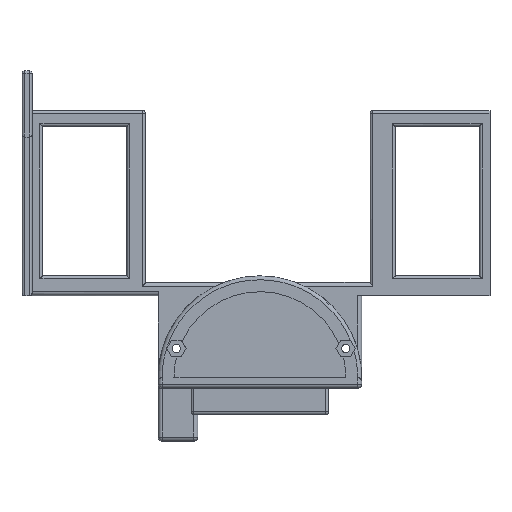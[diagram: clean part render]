
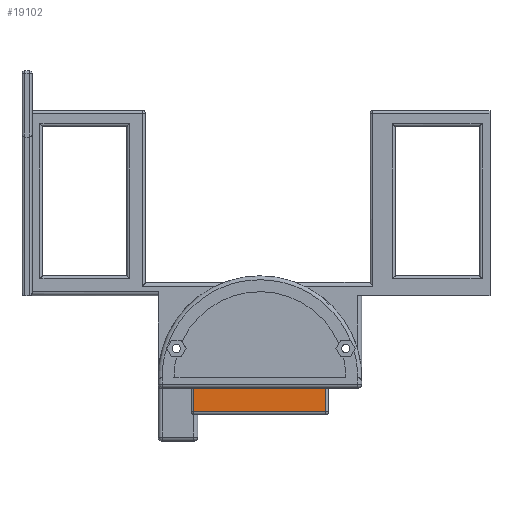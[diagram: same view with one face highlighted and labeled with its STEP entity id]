
A CAD part, front view. The second image highlights one B-rep face of the part: STEP entity #19102.
In plain terms, the highlighted planar face has unit normal (0, -1, 0).
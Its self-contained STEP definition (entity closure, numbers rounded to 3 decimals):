
#1216 = PLANE('',#1217);
#1217 = AXIS2_PLACEMENT_3D('',#1218,#1219,#1220);
#1218 = CARTESIAN_POINT('',(-40.176,7.5,-59.059));
#1219 = DIRECTION('',(0.,0.,-1.));
#1220 = DIRECTION('',(-1.,0.,-0.));
#1269 = VERTEX_POINT('',#1270);
#1270 = CARTESIAN_POINT('',(-26.676,-34.5,-59.059));
#1289 = CYLINDRICAL_SURFACE('',#1290,1.);
#1290 = AXIS2_PLACEMENT_3D('',#1291,#1292,#1293);
#1291 = CARTESIAN_POINT('',(-26.676,-33.5,-69.059));
#1292 = DIRECTION('',(-0.,0.,1.));
#1293 = DIRECTION('',(1.,0.,0.));
#1301 = EDGE_CURVE('',#1302,#1269,#1304,.T.);
#1302 = VERTEX_POINT('',#1303);
#1303 = CARTESIAN_POINT('',(23.324,-34.5,-59.059));
#1304 = SURFACE_CURVE('',#1305,(#1309,#1316),.PCURVE_S1.);
#1305 = LINE('',#1306,#1307);
#1306 = CARTESIAN_POINT('',(0.,-34.5,-59.059));
#1307 = VECTOR('',#1308,1.);
#1308 = DIRECTION('',(-1.,0.,0.));
#1309 = PCURVE('',#1216,#1310);
#1310 = DEFINITIONAL_REPRESENTATION('',(#1311),#1315);
#1311 = LINE('',#1312,#1313);
#1312 = CARTESIAN_POINT('',(-40.176,-42.));
#1313 = VECTOR('',#1314,1.);
#1314 = DIRECTION('',(1.,0.));
#1315 = ( GEOMETRIC_REPRESENTATION_CONTEXT(2) 
PARAMETRIC_REPRESENTATION_CONTEXT() REPRESENTATION_CONTEXT('2D SPACE',''
  ) );
#1316 = PCURVE('',#1317,#1322);
#1317 = PLANE('',#1318);
#1318 = AXIS2_PLACEMENT_3D('',#1319,#1320,#1321);
#1319 = CARTESIAN_POINT('',(0.,-34.5,-69.059));
#1320 = DIRECTION('',(0.,1.,0.));
#1321 = DIRECTION('',(0.,-0.,1.));
#1322 = DEFINITIONAL_REPRESENTATION('',(#1323),#1327);
#1323 = LINE('',#1324,#1325);
#1324 = CARTESIAN_POINT('',(10.,0.));
#1325 = VECTOR('',#1326,1.);
#1326 = DIRECTION('',(0.,-1.));
#1327 = ( GEOMETRIC_REPRESENTATION_CONTEXT(2) 
PARAMETRIC_REPRESENTATION_CONTEXT() REPRESENTATION_CONTEXT('2D SPACE',''
  ) );
#1350 = CYLINDRICAL_SURFACE('',#1351,1.);
#1351 = AXIS2_PLACEMENT_3D('',#1352,#1353,#1354);
#1352 = CARTESIAN_POINT('',(23.324,-33.5,-69.059));
#1353 = DIRECTION('',(0.,0.,-1.));
#1354 = DIRECTION('',(-1.,0.,0.));
#19102 = ADVANCED_FACE('',(#19103),#1317,.F.);
#19103 = FACE_BOUND('',#19104,.T.);
#19104 = EDGE_LOOP('',(#19105,#19106,#19129,#19157));
#19105 = ORIENTED_EDGE('',*,*,#1301,.T.);
#19106 = ORIENTED_EDGE('',*,*,#19107,.T.);
#19107 = EDGE_CURVE('',#1269,#19108,#19110,.T.);
#19108 = VERTEX_POINT('',#19109);
#19109 = CARTESIAN_POINT('',(-26.676,-34.5,-68.059)
  );
#19110 = SURFACE_CURVE('',#19111,(#19115,#19122),.PCURVE_S1.);
#19111 = LINE('',#19112,#19113);
#19112 = CARTESIAN_POINT('',(-26.676,-34.5,-69.059)
  );
#19113 = VECTOR('',#19114,1.);
#19114 = DIRECTION('',(-0.,-0.,-1.));
#19115 = PCURVE('',#1317,#19116);
#19116 = DEFINITIONAL_REPRESENTATION('',(#19117),#19121);
#19117 = LINE('',#19118,#19119);
#19118 = CARTESIAN_POINT('',(0.,-26.676));
#19119 = VECTOR('',#19120,1.);
#19120 = DIRECTION('',(-1.,0.));
#19121 = ( GEOMETRIC_REPRESENTATION_CONTEXT(2) 
PARAMETRIC_REPRESENTATION_CONTEXT() REPRESENTATION_CONTEXT('2D SPACE',''
  ) );
#19122 = PCURVE('',#1289,#19123);
#19123 = DEFINITIONAL_REPRESENTATION('',(#19124),#19128);
#19124 = LINE('',#19125,#19126);
#19125 = CARTESIAN_POINT('',(4.712,0.));
#19126 = VECTOR('',#19127,1.);
#19127 = DIRECTION('',(0.,-1.));
#19128 = ( GEOMETRIC_REPRESENTATION_CONTEXT(2) 
PARAMETRIC_REPRESENTATION_CONTEXT() REPRESENTATION_CONTEXT('2D SPACE',''
  ) );
#19129 = ORIENTED_EDGE('',*,*,#19130,.T.);
#19130 = EDGE_CURVE('',#19108,#19131,#19133,.T.);
#19131 = VERTEX_POINT('',#19132);
#19132 = CARTESIAN_POINT('',(23.324,-34.5,-68.059)
  );
#19133 = SURFACE_CURVE('',#19134,(#19138,#19145),.PCURVE_S1.);
#19134 = LINE('',#19135,#19136);
#19135 = CARTESIAN_POINT('',(24.324,-34.5,-68.059)
  );
#19136 = VECTOR('',#19137,1.);
#19137 = DIRECTION('',(1.,-0.,0.));
#19138 = PCURVE('',#1317,#19139);
#19139 = DEFINITIONAL_REPRESENTATION('',(#19140),#19144);
#19140 = LINE('',#19141,#19142);
#19141 = CARTESIAN_POINT('',(1.,24.324));
#19142 = VECTOR('',#19143,1.);
#19143 = DIRECTION('',(0.,1.));
#19144 = ( GEOMETRIC_REPRESENTATION_CONTEXT(2) 
PARAMETRIC_REPRESENTATION_CONTEXT() REPRESENTATION_CONTEXT('2D SPACE',''
  ) );
#19145 = PCURVE('',#19146,#19151);
#19146 = CYLINDRICAL_SURFACE('',#19147,1.);
#19147 = AXIS2_PLACEMENT_3D('',#19148,#19149,#19150);
#19148 = CARTESIAN_POINT('',(0.,-33.5,-68.059));
#19149 = DIRECTION('',(1.,-0.,0.));
#19150 = DIRECTION('',(0.,0.,-1.));
#19151 = DEFINITIONAL_REPRESENTATION('',(#19152),#19156);
#19152 = LINE('',#19153,#19154);
#19153 = CARTESIAN_POINT('',(4.712,24.324));
#19154 = VECTOR('',#19155,1.);
#19155 = DIRECTION('',(0.,1.));
#19156 = ( GEOMETRIC_REPRESENTATION_CONTEXT(2) 
PARAMETRIC_REPRESENTATION_CONTEXT() REPRESENTATION_CONTEXT('2D SPACE',''
  ) );
#19157 = ORIENTED_EDGE('',*,*,#19158,.T.);
#19158 = EDGE_CURVE('',#19131,#1302,#19159,.T.);
#19159 = SURFACE_CURVE('',#19160,(#19164,#19171),.PCURVE_S1.);
#19160 = LINE('',#19161,#19162);
#19161 = CARTESIAN_POINT('',(23.324,-34.5,-59.059)
  );
#19162 = VECTOR('',#19163,1.);
#19163 = DIRECTION('',(-0.,0.,1.));
#19164 = PCURVE('',#1317,#19165);
#19165 = DEFINITIONAL_REPRESENTATION('',(#19166),#19170);
#19166 = LINE('',#19167,#19168);
#19167 = CARTESIAN_POINT('',(10.,23.324));
#19168 = VECTOR('',#19169,1.);
#19169 = DIRECTION('',(1.,0.));
#19170 = ( GEOMETRIC_REPRESENTATION_CONTEXT(2) 
PARAMETRIC_REPRESENTATION_CONTEXT() REPRESENTATION_CONTEXT('2D SPACE',''
  ) );
#19171 = PCURVE('',#1350,#19172);
#19172 = DEFINITIONAL_REPRESENTATION('',(#19173),#19177);
#19173 = LINE('',#19174,#19175);
#19174 = CARTESIAN_POINT('',(4.712,-10.));
#19175 = VECTOR('',#19176,1.);
#19176 = DIRECTION('',(0.,-1.));
#19177 = ( GEOMETRIC_REPRESENTATION_CONTEXT(2) 
PARAMETRIC_REPRESENTATION_CONTEXT() REPRESENTATION_CONTEXT('2D SPACE',''
  ) );
